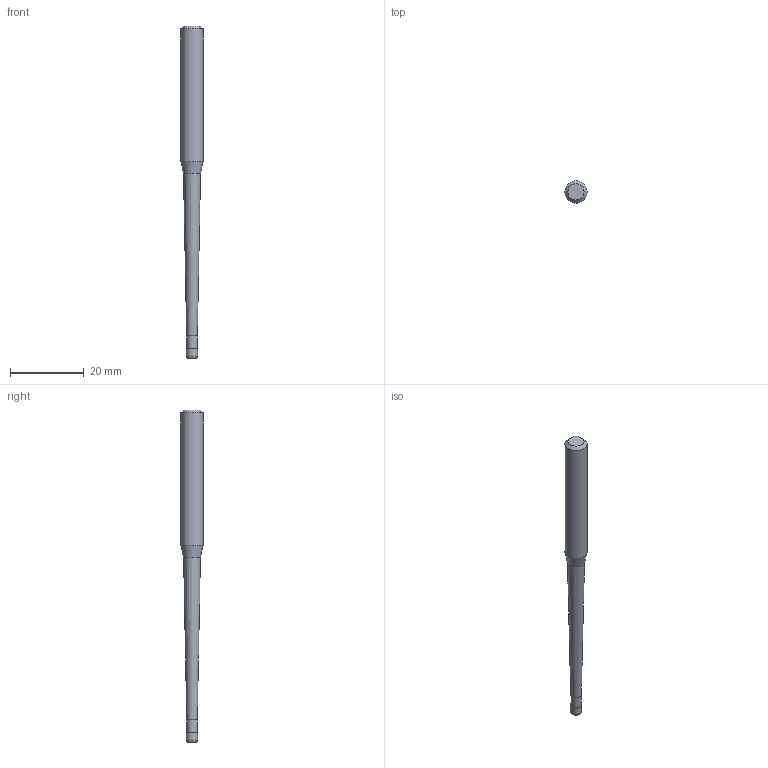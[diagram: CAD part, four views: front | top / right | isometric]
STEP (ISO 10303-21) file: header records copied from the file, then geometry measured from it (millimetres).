
FILE_DESCRIPTION((''),'2;1');
FILE_NAME('C:\Users\nsx150\AppData\Local\Temp\Mastercam 2021\YKS1SUSFZB\TEMP.step','2025-06-23T14:05:02',(''),(''),'STEP Write','Mastercam 2021 ... CNC Software, Inc.','');
FILE_SCHEMA(('AUTOMOTIVE_DESIGN'));
Length unit declared in the file: millimetre
Products named in the file (1): None
Bounding box: 6 x 6 x 90 mm (x, y, z)
Volume: 1643.3 mm3; surface area: 1361.1 mm2
Topology: 2 solids, 2 shells, 11 faces, 16 edges, 9 vertices
Faces by surface type: plane 4, cylinder 3, cone 3, torus 1
Full cylindrical faces by diameter (mm): 2.885 x1, 3 x1, 6 x1
Entity records: 253 total; most frequent: DIRECTION 44, CARTESIAN_POINT 31, AXIS2_PLACEMENT_3D 22, ORIENTED_EDGE 18, EDGE_LOOP 18, STYLED_ITEM 14, ADVANCED_FACE 11, FACE_BOUND 11
